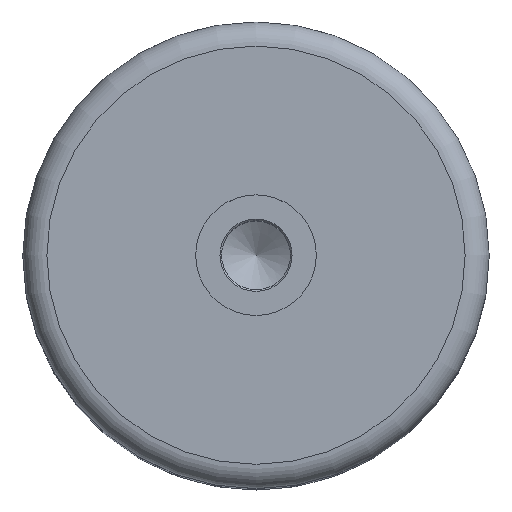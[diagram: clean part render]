
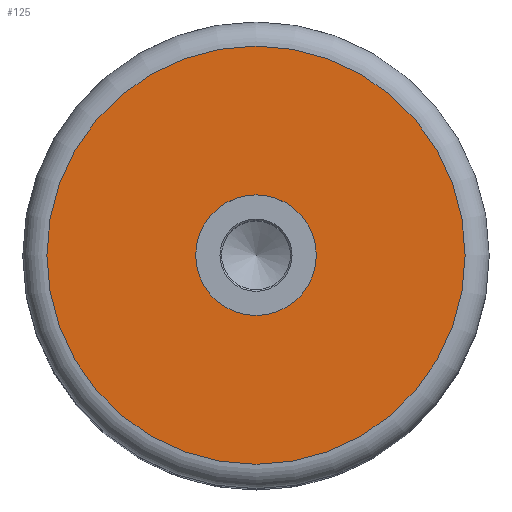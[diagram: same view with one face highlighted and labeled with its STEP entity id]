
A CAD part, top view. The second image highlights one B-rep face of the part: STEP entity #125.
In plain terms, the highlighted planar face has unit normal (0, 0, 1).
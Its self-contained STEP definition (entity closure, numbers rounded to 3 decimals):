
#125=ADVANCED_FACE('',(#219,#220),#221,.T.);
#219=FACE_BOUND('',#304,.T.);
#220=FACE_OUTER_BOUND('',#305,.T.);
#221=PLANE('',#306);
#304=EDGE_LOOP('',(#409));
#305=EDGE_LOOP('',(#410));
#306=AXIS2_PLACEMENT_3D('',#411,#412,#413);
#409=ORIENTED_EDGE('',*,*,#472,.F.);
#410=ORIENTED_EDGE('',*,*,#469,.T.);
#411=CARTESIAN_POINT('',(0.0,0.0,55.0));
#412=DIRECTION('',(0.0,0.0,1.0));
#413=DIRECTION('',(1.0,0.0,0.0));
#469=EDGE_CURVE('',#521,#521,#522,.T.);
#472=EDGE_CURVE('',#526,#526,#527,.T.);
#521=VERTEX_POINT('',#775);
#522=CIRCLE('',#776,26.0);
#526=VERTEX_POINT('',#780);
#527=CIRCLE('',#781,7.5);
#775=CARTESIAN_POINT('',(26.0,0.0,55.0));
#776=AXIS2_PLACEMENT_3D('',#830,#831,#832);
#780=CARTESIAN_POINT('',(7.5,0.0,55.0));
#781=AXIS2_PLACEMENT_3D('',#836,#837,#838);
#830=CARTESIAN_POINT('',(0.0,0.0,55.0));
#831=DIRECTION('',(0.0,0.0,1.0));
#832=DIRECTION('',(1.0,0.0,0.0));
#836=CARTESIAN_POINT('',(0.0,0.0,55.0));
#837=DIRECTION('',(0.0,0.0,1.0));
#838=DIRECTION('',(1.0,0.0,0.0));
